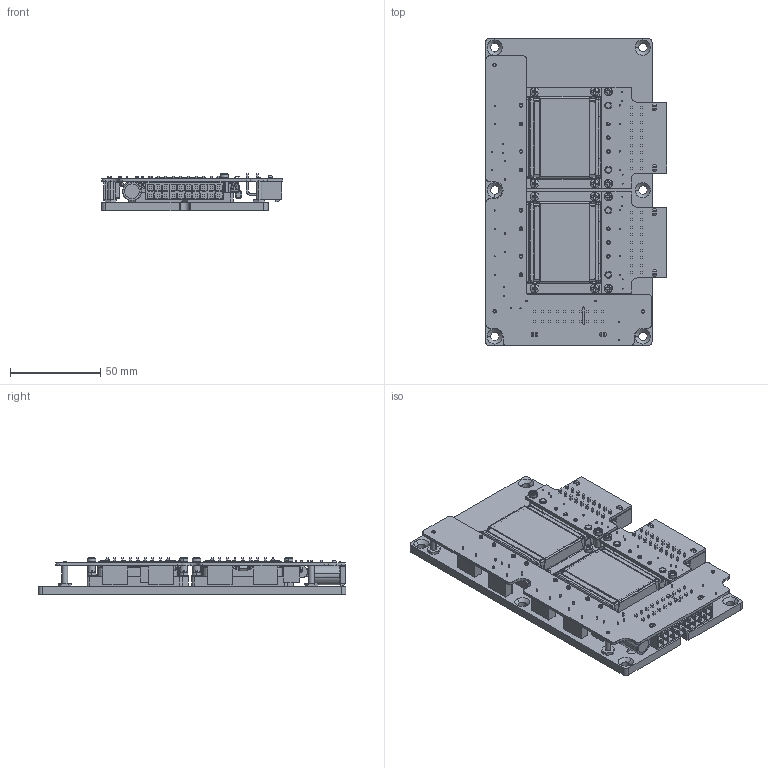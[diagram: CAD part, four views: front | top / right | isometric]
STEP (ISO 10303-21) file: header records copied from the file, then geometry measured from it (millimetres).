
FILE_DESCRIPTION (( 'STEP AP214' ), '1' );
FILE_NAME ('VA-A-PLUG-1OUT.STEP', '2011-02-18T23:02:11', ( 'Vicor Employee' ), ( 'Vicor Corporation' ), 'SwSTEP 2.0', 'SolidWorks 2011', '' );
FILE_SCHEMA (( 'AUTOMOTIVE_DESIGN' ));
Length unit declared in the file: inch
Products named in the file (1): VA-A-PLUG-1OUT
Bounding box: 100.3 x 170.56 x 20.73 mm (x, y, z)
Volume: 126508.7 mm3; surface area: 111575.7 mm2
Topology: 1 solids, 1 shells, 4864 faces, 12685 edges, 8050 vertices
Faces by surface type: plane 2865, cylinder 1353, bspline 254, cone 210, torus 122, sphere 60
Entity records: 237178 total; most frequent: CARTESIAN_POINT 56540, ORIENTED_EDGE 25202, DIRECTION 23373, EDGE_CURVE 12601, VECTOR 8403, LINE 8403, VERTEX_POINT 8050, AXIS2_PLACEMENT_3D 7485
